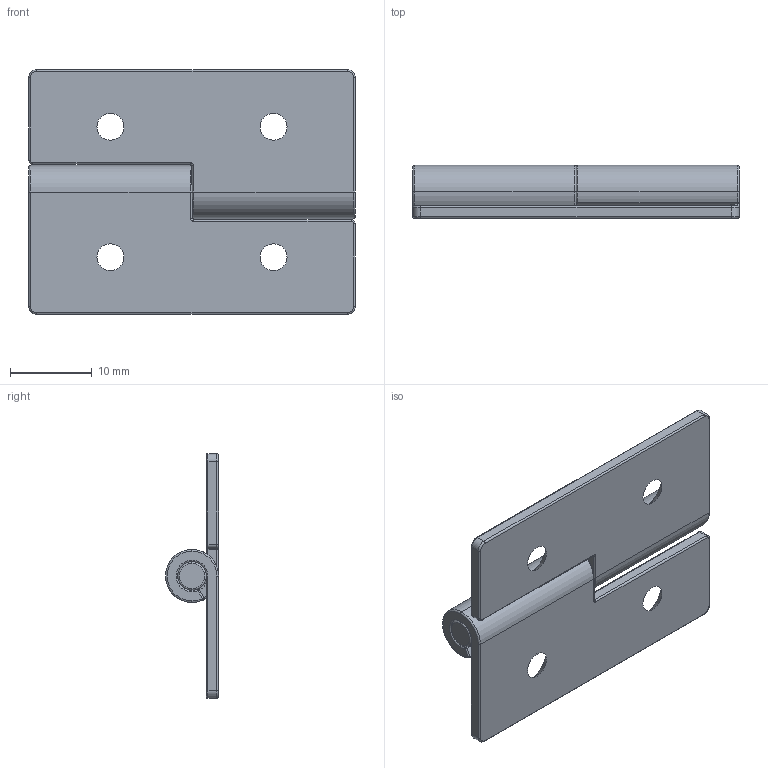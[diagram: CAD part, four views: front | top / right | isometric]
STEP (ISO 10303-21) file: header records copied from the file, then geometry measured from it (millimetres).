
FILE_DESCRIPTION (( 'STEP AP203' ), '1' );
FILE_NAME ('HGS-25309-R.STEP', '2017-08-04T06:45:13', ( '' ), ( '' ), 'SwSTEP 2.0', 'SolidWorks 2010', '' );
FILE_SCHEMA (( 'CONFIG_CONTROL_DESIGN' ));
Length unit declared in the file: millimetre
Products named in the file (3): HGS-25309-R; 插銷; 右開鉸鏈片
Assembly tree (3 placements, depth 2):
  HGS-25309-R
    右開鉸鏈片  x2
    插銷
Bounding box: 40 x 6.5 x 30 mm (x, y, z)
Volume: 2641.4 mm3; surface area: 3947 mm2
Topology: 3 solids, 3 shells, 144 faces, 322 edges, 180 vertices
Faces by surface type: torus 54, cylinder 52, plane 18, sphere 10, cone 10
Entity records: 2462 total; most frequent: DIRECTION 453, CARTESIAN_POINT 346, ORIENTED_EDGE 336, AXIS2_PLACEMENT_3D 201, EDGE_CURVE 168, CIRCLE 117, VERTEX_POINT 94, EDGE_LOOP 82
